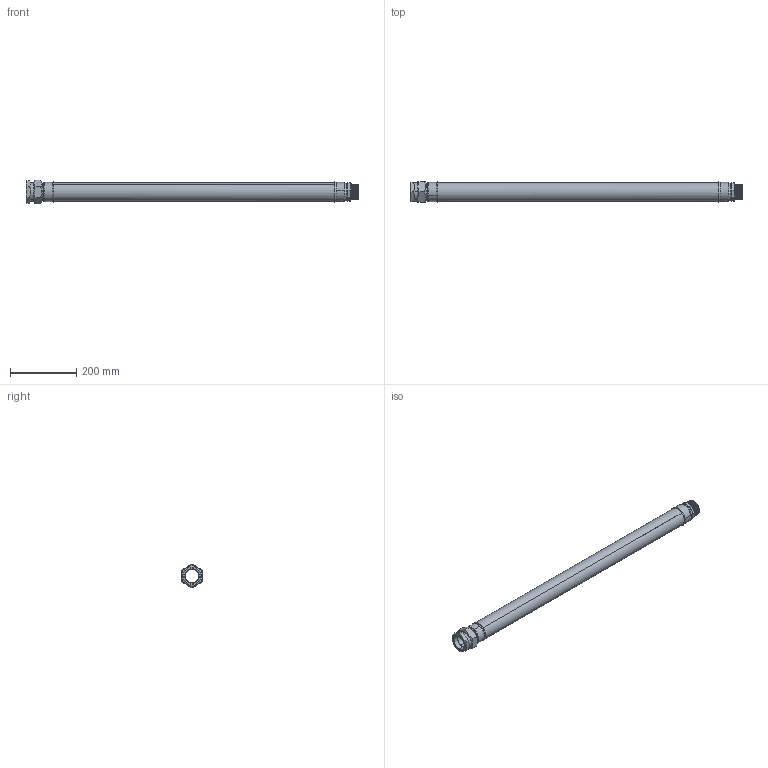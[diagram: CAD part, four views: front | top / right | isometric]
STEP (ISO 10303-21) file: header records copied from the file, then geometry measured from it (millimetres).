
FILE_DESCRIPTION (( 'STEP AP203' ), '1' );
FILE_NAME ('KP_T40-10S.step', '2011-08-08T11:46:39', ( '' ), ( '' ), 'SwSTEP 2.0', 'SolidWorks 2011', '' );
FILE_SCHEMA (( 'CONFIG_CONTROL_DESIGN' ));
Length unit declared in the file: millimetre
Products named in the file (1): KP_T40-10S
Bounding box: 1000 x 62 x 71.59 mm (x, y, z)
Volume: 500366.1 mm3; surface area: 348061.9 mm2
Topology: 1 solids, 2 shells, 154 faces, 384 edges, 246 vertices
Faces by surface type: cone 66, plane 54, cylinder 26, bspline 8
Entity records: 17197 total; most frequent: CARTESIAN_POINT 13592, ORIENTED_EDGE 768, DIRECTION 680, EDGE_CURVE 384, AXIS2_PLACEMENT_3D 268, VERTEX_POINT 246, EDGE_LOOP 170, FACE_OUTER_BOUND 154
